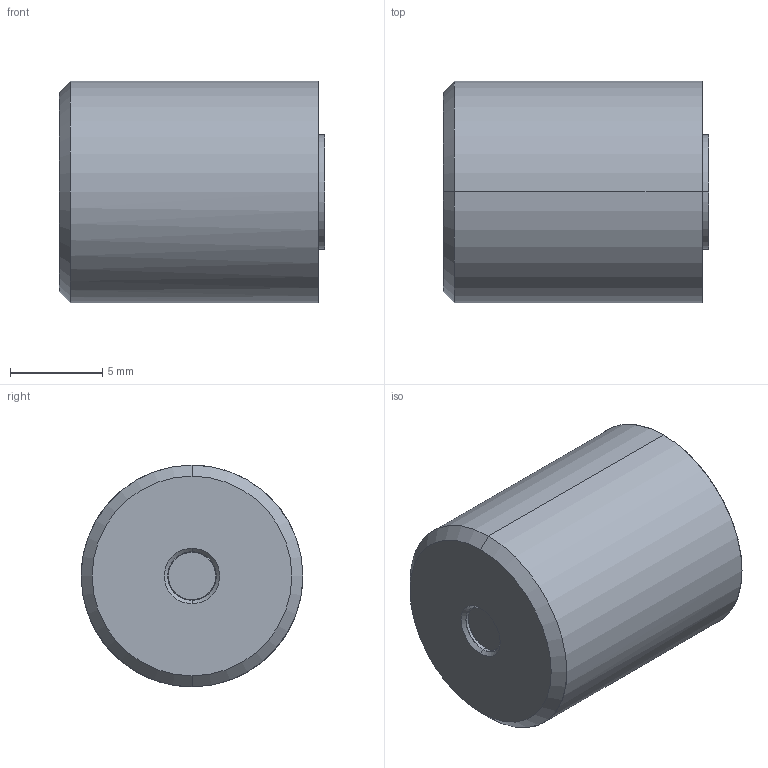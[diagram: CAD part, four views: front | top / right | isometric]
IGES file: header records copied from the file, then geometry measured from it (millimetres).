
Start section: START RECORD GO HERE.
Global section: file name: D374-12-A-DM-FA.igs; native system: DASSAULT SYSTEMES CATIA V5 R20 - www.3ds.com; preprocessor: CATIA Version 5 Release 20 ; author: Utente; organization: NB04-ASUS; date: 20210330.123244; units: millimetre
Bounding box: 14.35 x 12 x 12 mm (x, y, z)
Surface area: 1217 mm2 (no closed solid volume)
Topology: 0 solids, 0 shells, 222 faces, 1226 edges, 1224 vertices
Faces by surface type: plane 137, revolution 85
